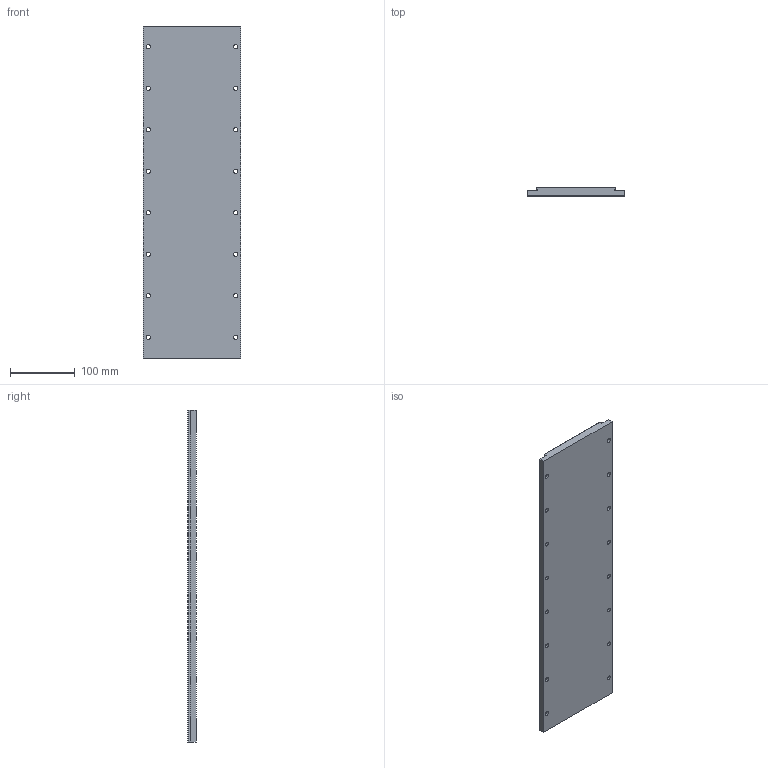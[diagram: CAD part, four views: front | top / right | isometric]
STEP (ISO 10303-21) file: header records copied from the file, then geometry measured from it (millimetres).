
FILE_DESCRIPTION (( 'STEP AP203' ), '1' );
FILE_NAME ('LMS5S6.STEP', '2007-05-16T11:57:03', ( 'MH0078' ), ( 'Hiwin MikroSystem Corp.' ), 'SwSTEP 2.0', 'SolidWorks 2007', '' );
FILE_SCHEMA (( 'CONFIG_CONTROL_DESIGN' ));
Length unit declared in the file: millimetre
Products named in the file (3): LMS5S6; C-LMS5S6
Assembly tree (2 placements, depth 2):
  LMS5S6
    LMS5S6
    C-LMS5S6
Bounding box: 150 x 12.5 x 512 mm (x, y, z)
Volume: 884623.3 mm3; surface area: 303020.8 mm2
Topology: 2 solids, 2 shells, 104 faces, 252 edges, 168 vertices
Faces by surface type: cylinder 68, plane 36
Entity records: 3481 total; most frequent: DIRECTION 606, CARTESIAN_POINT 529, ORIENTED_EDGE 504, EDGE_CURVE 252, AXIS2_PLACEMENT_3D 245, VERTEX_POINT 168, EDGE_LOOP 152, CIRCLE 136
